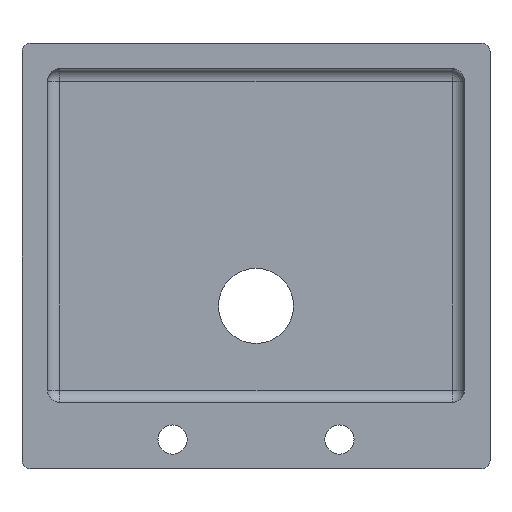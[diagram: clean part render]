
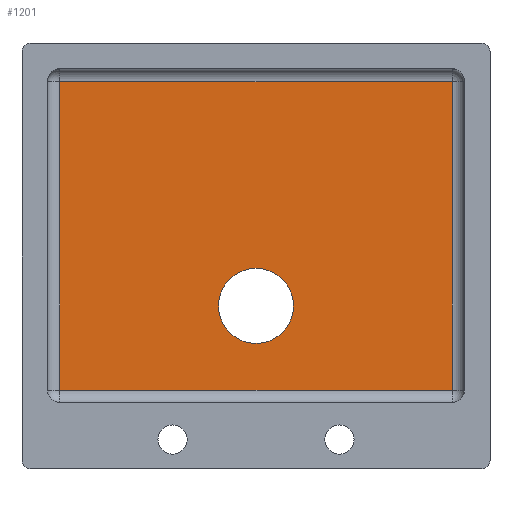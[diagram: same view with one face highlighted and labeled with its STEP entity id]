
A CAD part, top view. The second image highlights one B-rep face of the part: STEP entity #1201.
In plain terms, the highlighted planar face has unit normal (0, 0, 1).
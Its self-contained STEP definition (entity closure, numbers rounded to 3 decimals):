
#1077=CARTESIAN_POINT('Vertex',(45.,-59.5,-199.)) ;
#1080=CARTESIAN_POINT('Axis2P3D Location',(0.,-59.5,-199.)) ;
#1084=CARTESIAN_POINT('Vertex',(-45.,-59.5,-199.)) ;
#1099=CARTESIAN_POINT('Axis2P3D Location',(0.,-59.5,-199.)) ;
#1158=CARTESIAN_POINT('Axis2P3D Location',(0.,24.5,-199.)) ;
#1163=CARTESIAN_POINT('Line Origine',(0.,-160.5,-199.)) ;
#1167=CARTESIAN_POINT('Vertex',(235.,-160.5,-199.)) ;
#1169=CARTESIAN_POINT('Vertex',(-235.,-160.5,-199.)) ;
#1172=CARTESIAN_POINT('Line Origine',(235.,24.5,-199.)) ;
#1176=CARTESIAN_POINT('Vertex',(235.,209.5,-199.)) ;
#1179=CARTESIAN_POINT('Line Origine',(0.,209.5,-199.)) ;
#1183=CARTESIAN_POINT('Vertex',(-235.,209.5,-199.)) ;
#1186=CARTESIAN_POINT('Line Origine',(-235.,24.5,-199.)) ;
#1081=DIRECTION('Axis2P3D Direction',(0.,0.,1.)) ;
#1100=DIRECTION('Axis2P3D Direction',(0.,0.,1.)) ;
#1159=DIRECTION('Axis2P3D Direction',(0.,0.,1.)) ;
#1160=DIRECTION('Axis2P3D XDirection',(1.,0.,0.)) ;
#1164=DIRECTION('Vector Direction',(1.,0.,0.)) ;
#1173=DIRECTION('Vector Direction',(0.,1.,0.)) ;
#1180=DIRECTION('Vector Direction',(1.,0.,0.)) ;
#1187=DIRECTION('Vector Direction',(0.,1.,0.)) ;
#1082=AXIS2_PLACEMENT_3D('Circle Axis2P3D',#1080,#1081,$) ;
#1101=AXIS2_PLACEMENT_3D('Circle Axis2P3D',#1099,#1100,$) ;
#1161=AXIS2_PLACEMENT_3D('Plane Axis2P3D',#1158,#1159,#1160) ;
#1192=ORIENTED_EDGE('',*,*,#1171,.F.) ;
#1193=ORIENTED_EDGE('',*,*,#1178,.F.) ;
#1194=ORIENTED_EDGE('',*,*,#1185,.F.) ;
#1195=ORIENTED_EDGE('',*,*,#1190,.F.) ;
#1198=ORIENTED_EDGE('',*,*,#1086,.F.) ;
#1199=ORIENTED_EDGE('',*,*,#1103,.F.) ;
#1200=FACE_BOUND('',#1197,.T.) ;
#1165=VECTOR('Line Direction',#1164,1.) ;
#1174=VECTOR('Line Direction',#1173,1.) ;
#1181=VECTOR('Line Direction',#1180,1.) ;
#1188=VECTOR('Line Direction',#1187,1.) ;
#1201=ADVANCED_FACE('Vasca',(#1196,#1200),#1162,.T.) ;
#1083=CIRCLE('generated circle',#1082,45.) ;
#1102=CIRCLE('generated circle',#1101,45.) ;
#1086=EDGE_CURVE('',#1078,#1085,#1083,.T.) ;
#1103=EDGE_CURVE('',#1085,#1078,#1102,.T.) ;
#1171=EDGE_CURVE('',#1168,#1170,#1166,.F.) ;
#1178=EDGE_CURVE('',#1177,#1168,#1175,.F.) ;
#1185=EDGE_CURVE('',#1184,#1177,#1182,.T.) ;
#1190=EDGE_CURVE('',#1170,#1184,#1189,.T.) ;
#1191=EDGE_LOOP('',(#1192,#1193,#1194,#1195)) ;
#1197=EDGE_LOOP('',(#1198,#1199)) ;
#1196=FACE_OUTER_BOUND('',#1191,.T.) ;
#1166=LINE('Line',#1163,#1165) ;
#1175=LINE('Line',#1172,#1174) ;
#1182=LINE('Line',#1179,#1181) ;
#1189=LINE('Line',#1186,#1188) ;
#1162=PLANE('',#1161) ;
#1078=VERTEX_POINT('',#1077) ;
#1085=VERTEX_POINT('',#1084) ;
#1168=VERTEX_POINT('',#1167) ;
#1170=VERTEX_POINT('',#1169) ;
#1177=VERTEX_POINT('',#1176) ;
#1184=VERTEX_POINT('',#1183) ;
